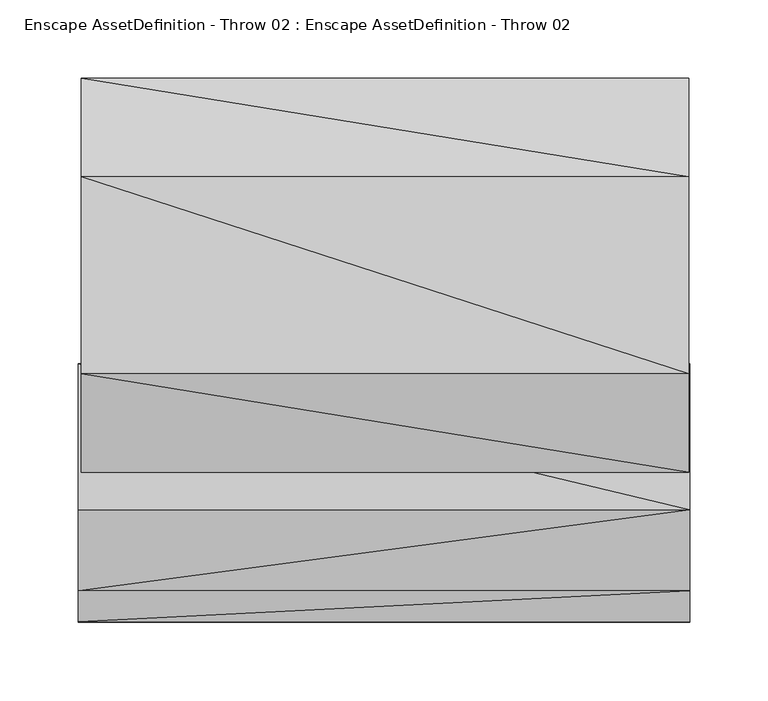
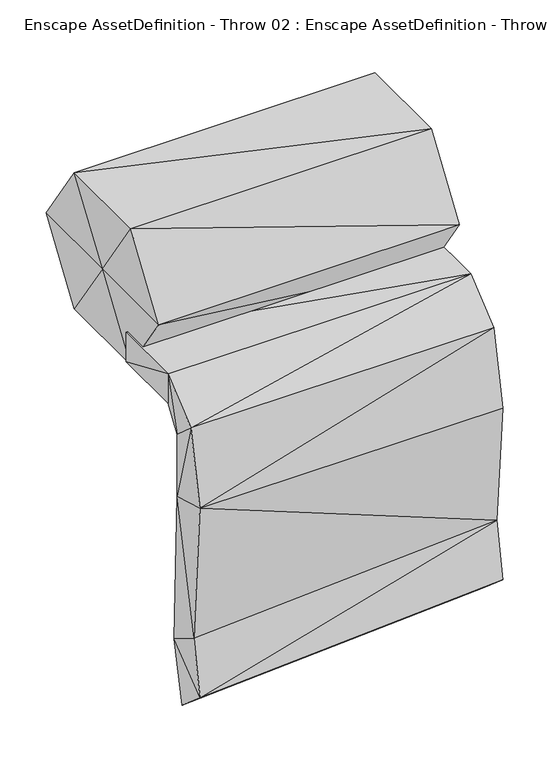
"""IFC4 building model written with IfcOpenShell, lengths in millimetres: geographic element geometry, Enscape AssetDefinition - Throw 02 : Enscape AssetDefinition - Throw 02."""

from ifc_helpers import new_model, si_unit, origin, place, context, project, spatial, faceted_brep, source, transform, mapped, element, save


def enscape_assetdefinition_throw_02_enscape_assetdefinition_20508830(model_context):
    return source(origin(), model_context, "Body", "Brep", [
        faceted_brep([(194.3848282, -109.689869, 1.3240546), (194.3848282, -16.4231919, 1.3240622), (194.3848282, -109.689869, 41.3186736), (-195.8327442, -16.423177, 1.3240546), (-195.8327591, -109.6898541, 1.3240546), (194.3848282, -16.4231919, 41.3186736), (194.3848282, -130.0184727, -28.4120236), (194.3847984, -161.2397432, -1.0213269), (-195.8327591, -130.0184578, -28.4120236), (-195.8327591, -109.6898541, 41.318655), (-195.8327442, -16.423177, 41.318655), (-195.832774, -161.2397283, -1.0213346), (-195.8327591, -129.887715, -112.8281578), (194.3848282, -129.887715, -112.8281429), (194.3848282, -181.0699254, -98.591432), (194.3847984, -123.3210042, -287.0856822), (194.3848282, -167.5720364, -259.8375678), (-195.8327591, -123.3209893, -311.1005723), (-195.832774, -181.0698956, -98.5914618), (-195.8327591, -167.5720364, -283.8525176), (-195.8327591, -181.4910173, -356.4125896), (194.3848282, -141.1208808, -366.931051), (-195.8327591, -141.1208808, -390.945971), (194.3848282, -181.4910173, -332.3976398)], [[[0, 1, 2]], [[3, 1, 4]], [[2, 1, 5]], [[4, 1, 0]], [[3, 5, 1]], [[6, 0, 7]], [[7, 0, 2]], [[6, 4, 0]], [[8, 4, 6]], [[9, 3, 4]], [[8, 9, 4]], [[10, 3, 9]], [[10, 5, 3]], [[10, 2, 5]], [[9, 2, 10]], [[11, 9, 8]], [[11, 2, 9]], [[12, 8, 13]], [[12, 11, 8]], [[13, 8, 6]], [[13, 6, 14]], [[14, 6, 7]], [[15, 13, 16]], [[17, 12, 13]], [[16, 13, 14]], [[17, 13, 15]], [[18, 11, 12]], [[19, 18, 12]], [[19, 12, 17]], [[19, 17, 20]], [[17, 15, 21]], [[20, 17, 22]], [[17, 21, 22]], [[15, 16, 23]], [[15, 23, 21]], [[21, 23, 20]], [[21, 20, 22]], [[16, 19, 20]], [[16, 20, 23]], [[16, 18, 19]], [[16, 14, 18]], [[14, 7, 18]], [[18, 7, 11]], [[7, 2, 11]]]),
        faceted_brep([(-194.0055341, -85.7079327, 93.3792964), (193.8756704, -85.7079551, 93.3793038), (-194.0055341, -22.842098, 185.9690249), (193.8757151, 40.0237106, 93.3793038), (193.8756704, -22.8421167, 185.9690398), (193.8757151, -22.8421055, 0.789578), (-194.0055192, 102.8895751, 185.96901), (-194.0055192, 40.0237329, 93.3792964), (-194.0055192, -22.8420906, 0.7895704), (193.8757151, 102.8895304, 0.789578), (193.8756704, 102.8895453, 185.9690398), (193.8757151, 165.7553762, 93.3792964), (-194.0055043, 165.7553911, 93.3792889), (-194.0055043, 102.8895453, 0.7895704)], [[[0, 1, 2]], [[3, 4, 1]], [[3, 1, 5]], [[2, 1, 4]], [[0, 5, 1]], [[2, 4, 6]], [[7, 0, 2]], [[7, 2, 6]], [[8, 5, 0]], [[7, 8, 0]], [[3, 5, 9]], [[8, 9, 5]], [[3, 10, 4]], [[3, 11, 10]], [[3, 9, 11]], [[6, 4, 10]], [[6, 10, 12]], [[7, 6, 12]], [[7, 12, 13]], [[7, 13, 8]], [[13, 9, 8]], [[13, 11, 9]], [[12, 11, 13]], [[12, 10, 11]]]),
    ])


if __name__ == "__main__":
    model = new_model("IFC4")
    model_context = context("Model", 3, world=origin())
    ifc_project = project(units=[si_unit("LENGTHUNIT", "METRE", prefix="MILLI")], contexts=[model_context])
    site = spatial("IfcSite", under=ifc_project)
    building = spatial("IfcBuilding", under=site)
    placement = place(None, origin())
    enscape_assetdefinition_throw_02_enscape_assetdefinition_shape = enscape_assetdefinition_throw_02_enscape_assetdefinition_20508830(model_context)
    element("IfcGeographicElement", 1, ObjectType="Enscape AssetDefinition - Throw 02 : Enscape AssetDefinition - Throw 02", at=placement, inside=building, context=model_context, shape_type="MappedRepresentation", body=[
        mapped(enscape_assetdefinition_throw_02_enscape_assetdefinition_shape, transform((0.0, 0.0, 0.0), x_axis=(1.0, 0.0, 0.0), y_axis=(0.0, 1.0, 0.0), z_axis=(0.0, 0.0, 1.0))),
    ])
    save(model, "model.ifc")
